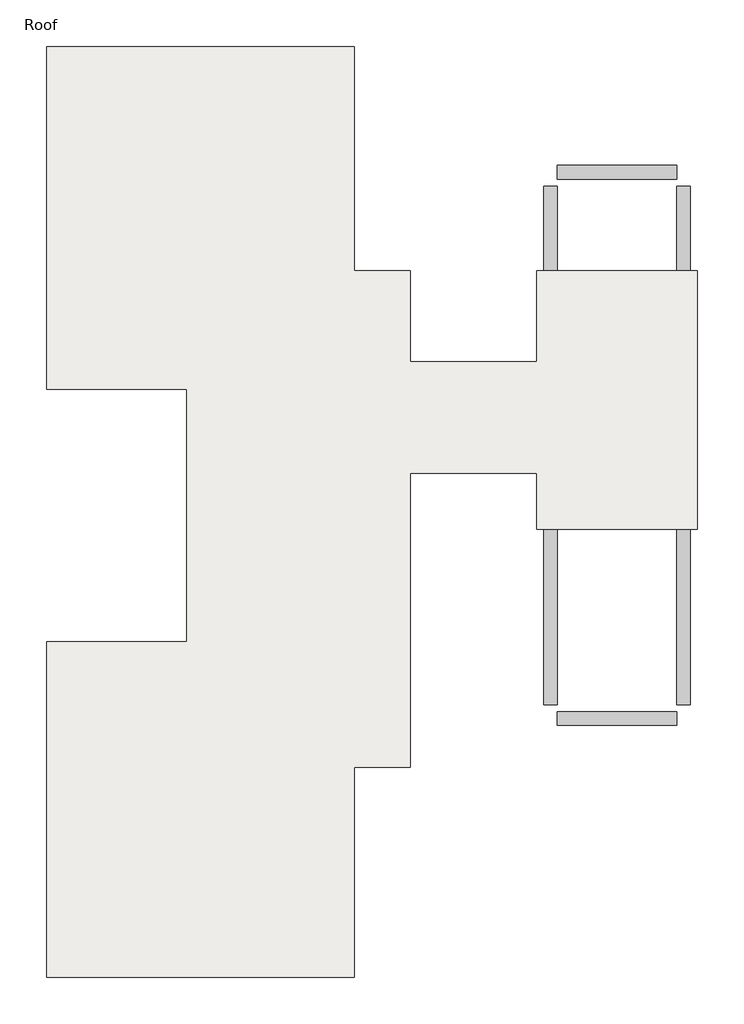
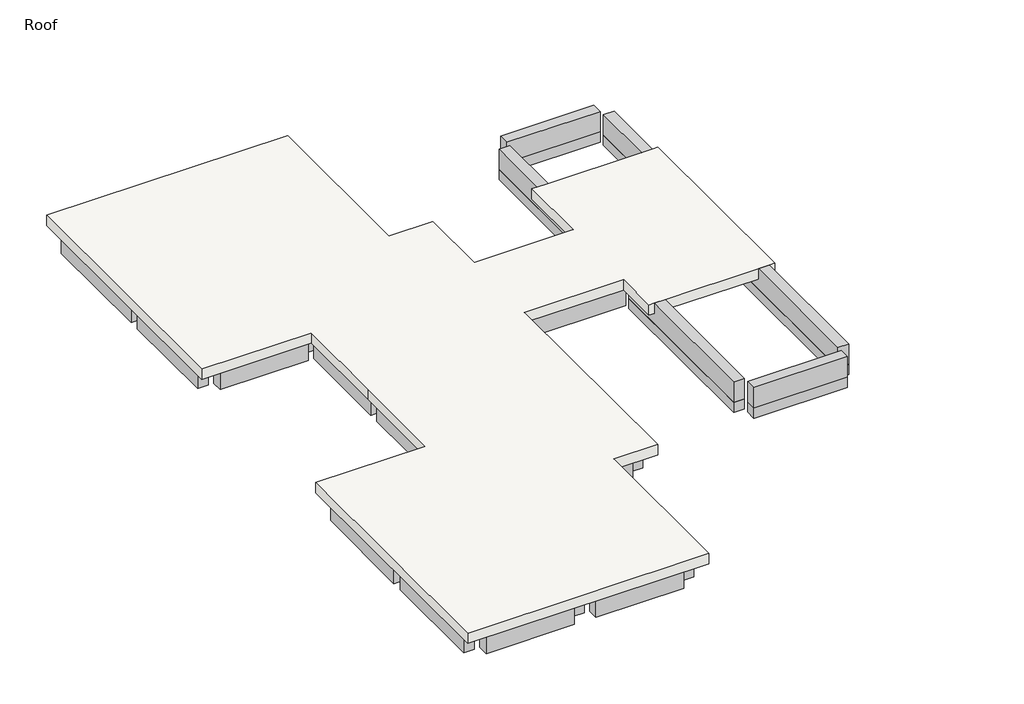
# One storey: 28 beams, 1 slab.
"""IFC4 building model written with IfcOpenShell, lengths in millimetres."""

from ifc_helpers import new_model, si_unit, frame, origin, place, context, project, spatial, polyline, outline, extrude, faceted_brep, element, save

model = new_model("IFC4")

# Units and contexts
model_context = context("Model", 3, world=origin())
ifc_project = project(units=[si_unit("LENGTHUNIT", "METRE", prefix="MILLI")], contexts=[model_context])

# Site, building, storey
site = spatial("IfcSite", under=ifc_project)
building = spatial("IfcBuilding", under=site)
storey = spatial("IfcBuildingStorey", under=building, Name="Roof", Elevation=7620.0)

# Beams
placement = place(None, origin())
element("IfcBeam", 1, ObjectType="M_Concrete-Rectangular Beam : 300 x 600mm", at=placement, inside=storey, context=model_context, shape_type="Brep", body=[
    faceted_brep([(-10964.7526929, 13307.19569, 7320.0), (-14012.7526929, 13307.19569, 7320.0), (-14012.7526929, 13157.19569, 7320.0), (-14012.7526929, 13007.19569, 7320.0), (-13862.7526929, 13007.19569, 7320.0), (-11114.7526929, 13007.19569, 7320.0), (-10964.7526929, 13007.19569, 7320.0), (-10964.7526929, 13157.19569, 7320.0), (-14012.7526929, 13007.19569, 7315.2), (-13712.7526929, 13007.19569, 7315.2), (-13712.7526929, 13007.19569, 6720.0), (-11264.7526929, 13007.19569, 6720.0), (-11264.7526929, 13007.19569, 7315.2), (-10964.7526929, 13007.19569, 7315.2), (-13712.7526929, 13307.19569, 6720.0), (-11264.7526929, 13307.19569, 6720.0), (-10964.7526929, 13307.19569, 7315.2), (-11264.7526929, 13307.19569, 7315.2), (-13712.7526929, 13307.19569, 7315.2), (-14012.7526929, 13307.19569, 7315.2), (-14012.7526929, 13157.19569, 7315.2), (-10964.7526929, 13157.19569, 7315.2)], [[[0, 1, 2, 3, 4, 5, 6, 7]], [[6, 5, 4, 3, 8, 9, 10, 11, 12, 13]], [[10, 14, 15, 11]], [[1, 0, 16, 17, 15, 14, 18, 19]], [[9, 18, 14, 10]], [[18, 9, 8, 20, 19]], [[17, 12, 11, 15]], [[12, 17, 16, 21, 13]], [[3, 2, 1, 19, 20, 8]], [[0, 7, 6, 13, 21, 16]]]),
])
element("IfcBeam", 2, ObjectType="M_Concrete-Rectangular Beam : 300 x 600mm", at=placement, inside=storey, context=model_context, shape_type="Brep", body=[
    faceted_brep([(-7916.7526929, 13307.19569, 7320.0), (-10964.7526929, 13307.19569, 7320.0), (-10964.7526929, 13157.19569, 7320.0), (-10814.7526929, 13157.19569, 7320.0), (-10814.7526929, 13007.19569, 7320.0), (-8066.7526929, 13007.19569, 7320.0), (-7916.7526929, 13007.19569, 7320.0), (-7916.7526929, 13157.19569, 7320.0), (-10664.7526929, 13007.19569, 7315.2), (-10664.7526929, 13007.19569, 6720.0), (-8216.7526929, 13007.19569, 6720.0), (-8216.7526929, 13007.19569, 7315.2), (-7916.7526929, 13007.19569, 7315.2), (-10814.7526929, 13007.19569, 7315.2), (-10664.7526929, 13307.19569, 6720.0), (-8216.7526929, 13307.19569, 6720.0), (-7916.7526929, 13307.19569, 7315.2), (-8216.7526929, 13307.19569, 7315.2), (-10664.7526929, 13307.19569, 7315.2), (-10964.7526929, 13307.19569, 7315.2), (-10814.7526929, 13157.19569, 7315.2), (-10964.7526929, 13157.19569, 7315.2), (-7916.7526929, 13157.19569, 7315.2)], [[[0, 1, 2, 3, 4, 5, 6, 7]], [[8, 9, 10, 11, 12, 6, 5, 4, 13]], [[9, 14, 15, 10]], [[1, 0, 16, 17, 15, 14, 18, 19]], [[8, 18, 14, 9]], [[18, 8, 13, 20, 21, 19]], [[17, 11, 10, 15]], [[11, 17, 16, 22, 12]], [[3, 20, 13, 4]], [[1, 19, 21, 2]], [[0, 7, 6, 12, 22, 16]], [[20, 3, 2, 21]]]),
])
element("IfcBeam", 3, ObjectType="M_Concrete-Rectangular Beam : 300 x 600mm", at=placement, inside=storey, context=model_context, shape_type="Brep", body=[
    faceted_brep([(-14162.7526929, 13157.19569, 7320.0), (-14162.7526929, 6299.19569, 7320.0), (-14012.7526929, 6299.19569, 7320.0), (-13862.7526929, 6299.19569, 7320.0), (-13862.7526929, 6449.19569, 7320.0), (-13862.7526929, 9349.59569, 7320.0), (-13862.7526929, 9649.59569, 7320.0), (-13862.7526929, 13007.19569, 7320.0), (-14012.7526929, 13007.19569, 7320.0), (-14012.7526929, 13157.19569, 7320.0), (-14162.7526929, 13157.19569, 7315.2), (-14162.7526929, 13007.19569, 7315.2), (-14162.7526929, 13007.19569, 6720.0), (-14162.7526929, 9649.59569, 6720.0), (-14162.7526929, 9649.59569, 7315.2), (-14162.7526929, 9349.59569, 7315.2), (-14162.7526929, 9349.59569, 6720.0), (-14162.7526929, 6449.19569, 6720.0), (-14162.7526929, 6449.19569, 7315.2), (-14162.7526929, 6299.19569, 7315.2), (-13862.7526929, 9349.59569, 6720.0), (-13862.7526929, 6449.19569, 6720.0), (-13862.7526929, 9649.59569, 7315.2), (-13862.7526929, 9649.59569, 6720.0), (-13862.7526929, 13007.19569, 6720.0), (-13862.7526929, 6299.19569, 7315.2), (-13862.7526929, 6449.19569, 7315.2), (-13862.7526929, 9349.59569, 7315.2), (-14012.7526929, 13007.19569, 7315.2), (-14012.7526929, 13157.19569, 7315.2), (-14012.7526929, 6299.19569, 7315.2)], [[[0, 1, 2, 3, 4, 5, 6, 7, 8, 9]], [[1, 0, 10, 11, 12, 13, 14, 15, 16, 17, 18, 19]], [[16, 20, 21, 17]], [[22, 23, 24, 7, 6, 5, 4, 3, 25, 26, 21, 20, 27]], [[8, 7, 24, 12, 11, 28]], [[28, 11, 10, 29]], [[22, 14, 13, 23]], [[15, 27, 20, 16]], [[14, 22, 27, 15]], [[23, 13, 12, 24]], [[26, 18, 17, 21]], [[18, 26, 25, 30, 19]], [[0, 9, 29, 10]], [[3, 2, 1, 19, 30, 25]], [[9, 8, 28, 29]]]),
])
element("IfcBeam", 4, ObjectType="M_Concrete-Rectangular Beam : 300 x 600mm", at=placement, inside=storey, context=model_context, shape_type="Brep", body=[
    faceted_brep([(-13862.7526929, 9649.59569, 7320.0), (-13862.7526929, 9349.59569, 7320.0), (-11114.7526929, 9349.59569, 7320.0), (-10814.7526929, 9349.59569, 7320.0), (-8066.7526929, 9349.59569, 7320.0), (-8066.7526929, 9649.59569, 7320.0), (-10814.7526929, 9649.59569, 7320.0), (-11114.7526929, 9649.59569, 7320.0), (-13862.7526929, 9349.59569, 7315.2), (-13712.7526929, 9349.59569, 7315.2), (-13712.7526929, 9349.59569, 6720.0), (-11264.7526929, 9349.59569, 6720.0), (-11264.7526929, 9349.59569, 7315.2), (-10664.7526929, 9349.59569, 7315.2), (-10664.7526929, 9349.59569, 6720.0), (-8216.7526929, 9349.59569, 6720.0), (-8216.7526929, 9349.59569, 7315.2), (-8066.7526929, 9349.59569, 7315.2), (-13712.7526929, 9649.59569, 6720.0), (-11264.7526929, 9649.59569, 6720.0), (-13862.7526929, 9649.59569, 7315.2), (-8066.7526929, 9649.59569, 7315.2), (-8216.7526929, 9649.59569, 7315.2), (-8216.7526929, 9649.59569, 6720.0), (-10664.7526929, 9649.59569, 6720.0), (-10664.7526929, 9649.59569, 7315.2), (-11264.7526929, 9649.59569, 7315.2), (-13712.7526929, 9649.59569, 7315.2)], [[[0, 1, 2, 3, 4, 5, 6, 7]], [[1, 8, 9, 10, 11, 12, 13, 14, 15, 16, 17, 4, 3, 2]], [[10, 18, 19, 11]], [[20, 0, 7, 6, 5, 21, 22, 23, 24, 25, 26, 19, 18, 27]], [[1, 0, 20, 8]], [[9, 27, 18, 10]], [[27, 9, 8, 20]], [[13, 25, 24, 14]], [[26, 12, 11, 19]], [[25, 13, 12, 26]], [[14, 24, 23, 15]], [[22, 16, 15, 23]], [[16, 22, 21, 17]], [[5, 4, 17, 21]]]),
])
element("IfcBeam", 5, ObjectType="M_Concrete-Rectangular Beam : 300 x 600mm", at=placement, inside=storey, context=model_context, shape_type="Brep", body=[
    faceted_brep([(-13862.7526929, 6449.19569, 7320.0), (-13862.7526929, 6299.19569, 7320.0), (-14012.7526929, 6299.19569, 7320.0), (-14012.7526929, 6149.19569, 7320.0), (-11114.7526929, 6149.19569, 7320.0), (-10814.7526929, 6149.19569, 7320.0), (-6847.5526929, 6149.19569, 7320.0), (-6547.5526929, 6149.19569, 7320.0), (-3494.7526929, 6149.19569, 7320.0), (-3494.7526929, 6449.19569, 7320.0), (-6547.5526929, 6449.19569, 7320.0), (-6847.5526929, 6449.19569, 7320.0), (-10814.7526929, 6449.19569, 7320.0), (-11114.7526929, 6449.19569, 7320.0), (-6397.5526929, 6149.19569, 7315.2), (-6397.5526929, 6149.19569, 6720.0), (-3494.7526929, 6149.19569, 6720.0), (-14012.7526929, 6149.19569, 7315.2), (-13712.7526929, 6149.19569, 7315.2), (-13712.7526929, 6149.19569, 6720.0), (-11264.7526929, 6149.19569, 6720.0), (-11264.7526929, 6149.19569, 7315.2), (-10664.7526929, 6149.19569, 7315.2), (-10664.7526929, 6149.19569, 6720.0), (-6997.5526929, 6149.19569, 6720.0), (-6997.5526929, 6149.19569, 7315.2), (-11264.7526929, 6449.19569, 6720.0), (-13712.7526929, 6449.19569, 6720.0), (-6397.5526929, 6449.19569, 6720.0), (-6397.5526929, 6449.19569, 7315.2), (-6997.5526929, 6449.19569, 7315.2), (-6997.5526929, 6449.19569, 6720.0), (-10664.7526929, 6449.19569, 6720.0), (-10664.7526929, 6449.19569, 7315.2), (-11264.7526929, 6449.19569, 7315.2), (-13712.7526929, 6449.19569, 7315.2), (-13862.7526929, 6449.19569, 7315.2), (-3494.7526929, 6449.19569, 6720.0), (-13862.7526929, 6299.19569, 7315.2), (-14012.7526929, 6299.19569, 7315.2)], [[[0, 1, 2, 3, 4, 5, 6, 7, 8, 9, 10, 11, 12, 13]], [[14, 15, 16, 8, 7, 6, 5, 4, 3, 17, 18, 19, 20, 21, 22, 23, 24, 25]], [[26, 20, 19, 27]], [[28, 29, 30, 31, 32, 33, 34, 26, 27, 35, 36, 0, 13, 12, 11, 10, 9, 37]], [[1, 0, 36, 38]], [[14, 29, 28, 15]], [[30, 25, 24, 31]], [[29, 14, 25, 30]], [[22, 33, 32, 23]], [[34, 21, 20, 26]], [[33, 22, 21, 34]], [[18, 35, 27, 19]], [[35, 18, 17, 39, 38, 36]], [[9, 8, 16, 37]], [[31, 24, 23, 32]], [[15, 28, 37, 16]], [[3, 2, 39, 17]], [[2, 1, 38, 39]]]),
    faceted_brep([(-599.1526929, 6449.19569, 7320.0), (-599.1526929, 6149.19569, 7320.0), (-599.1526929, 6149.19569, 6720.0), (-599.1526929, 6449.19569, 6720.0), (-3194.7526929, 6149.19569, 6720.0), (-3194.7526929, 6449.19569, 6720.0), (-3194.7526929, 6149.19569, 7320.0), (-3194.7526929, 6449.19569, 7320.0)], [[[0, 1, 2, 3]], [[3, 2, 4, 5]], [[6, 7, 5, 4]], [[1, 0, 7, 6]], [[2, 1, 6, 4]], [[0, 3, 5, 7]]]),
])
element("IfcBeam", 6, ObjectType="M_Concrete-Rectangular Beam : 300 x 600mm", at=placement, inside=storey, context=model_context, shape_type="Brep", body=[
    faceted_brep([(-10964.7526929, 13007.19569, 7320.0), (-11114.7526929, 13007.19569, 7320.0), (-11114.7526929, 9649.59569, 7320.0), (-10814.7526929, 9649.59569, 7320.0), (-10814.7526929, 13007.19569, 7320.0), (-10814.7526929, 13157.19569, 7320.0), (-10964.7526929, 13157.19569, 7320.0), (-11114.7526929, 9649.59569, 6720.0), (-11114.7526929, 13007.19569, 6720.0), (-10814.7526929, 9649.59569, 6720.0), (-10814.7526929, 13007.19569, 6720.0), (-10814.7526929, 13007.19569, 7315.2), (-10814.7526929, 13157.19569, 7315.2), (-10964.7526929, 13007.19569, 7315.2), (-10964.7526929, 13157.19569, 7315.2)], [[[0, 1, 2, 3, 4, 5, 6]], [[7, 2, 1, 8]], [[9, 7, 8, 10]], [[3, 9, 10, 11, 12, 5, 4]], [[1, 0, 13, 11, 10, 8]], [[11, 13, 14, 12]], [[7, 9, 3, 2]], [[6, 5, 12, 14]], [[0, 6, 14, 13]]]),
    faceted_brep([(-10814.7526929, 9349.59569, 6720.0), (-11114.7526929, 9349.59569, 6720.0), (-11114.7526929, 9349.59569, 7320.0), (-10814.7526929, 9349.59569, 7320.0), (-10814.7526929, 6449.19569, 6720.0), (-10814.7526929, 6449.19569, 7320.0), (-11114.7526929, 6449.19569, 7320.0), (-11114.7526929, 6449.19569, 6720.0)], [[[0, 1, 2, 3]], [[4, 5, 6, 7]], [[2, 1, 7, 6]], [[0, 3, 5, 4]], [[1, 0, 4, 7]], [[3, 2, 6, 5]]]),
    faceted_brep([(-11114.7526929, 3401.19569, 6720.0), (-11114.7526929, 6149.19569, 6720.0), (-10814.7526929, 6149.19569, 6720.0), (-10814.7526929, 3401.19569, 6720.0), (-11114.7526929, 6149.19569, 7320.0), (-10814.7526929, 6149.19569, 7320.0), (-10814.7526929, 3401.19569, 7315.2), (-11114.7526929, 3401.19569, 7315.2), (-11114.7526929, 3101.19569, 7315.2), (-10814.7526929, 3101.19569, 7315.2), (-10814.7526929, 3101.19569, 6720.0), (-11114.7526929, 3101.19569, 6720.0), (-10814.7526929, 353.19569, 7315.2), (-11114.7526929, 353.19569, 7315.2), (-11114.7526929, 353.19569, 6720.0), (-10814.7526929, 353.19569, 6720.0), (-11114.7526929, 53.19569, 7315.2), (-10814.7526929, 53.19569, 7315.2), (-10814.7526929, 53.19569, 6720.0), (-11114.7526929, 53.19569, 6720.0), (-10814.7526929, -2999.60431, 7315.2), (-11114.7526929, -2999.60431, 7315.2), (-11114.7526929, -2999.60431, 6720.0), (-10814.7526929, -2999.60431, 6720.0), (-11114.7526929, -3299.60431, 7315.2), (-10814.7526929, -3299.60431, 7315.2), (-10814.7526929, -3299.60431, 6720.0), (-11114.7526929, -3299.60431, 6720.0), (-11114.7526929, -6352.40431, 6720.0), (-10814.7526929, -6352.40431, 6720.0), (-10814.7526929, -6352.40431, 7320.0), (-11114.7526929, -6352.40431, 7320.0), (-11114.7526929, 353.19569, 7320.0), (-11114.7526929, 53.19569, 7320.0), (-11114.7526929, -2999.60431, 7320.0), (-11114.7526929, -3299.60431, 7320.0), (-10814.7526929, -3299.60431, 7320.0), (-10814.7526929, -2999.60431, 7320.0), (-10814.7526929, 53.19569, 7320.0), (-10814.7526929, 353.19569, 7320.0)], [[[0, 1, 2, 3]], [[1, 4, 5, 2]], [[6, 7, 0, 3]], [[8, 9, 10, 11]], [[7, 6, 9, 8]], [[12, 13, 14, 15]], [[16, 17, 18, 19]], [[13, 12, 17, 16]], [[20, 21, 22, 23]], [[24, 25, 26, 27]], [[21, 20, 25, 24]], [[28, 29, 30, 31]], [[5, 4, 32, 33, 34, 35, 31, 30, 36, 37, 38, 39]], [[0, 7, 8, 11, 14, 13, 16, 19, 22, 21, 24, 27, 28, 31, 35, 34, 33, 32, 4, 1]], [[6, 3, 2, 5, 39, 38, 37, 36, 30, 29, 26, 25, 20, 23, 18, 17, 12, 15, 10, 9]], [[28, 27, 26, 29]], [[14, 11, 10, 15]], [[22, 19, 18, 23]]]),
])
element("IfcBeam", 7, ObjectType="M_Concrete-Rectangular Beam : 300 x 600mm", at=placement, inside=storey, context=model_context, shape_type="Brep", body=[
    faceted_brep([(-13862.7526929, -6502.40431, 7320.0), (-13862.7526929, -6352.40431, 7320.0), (-13862.7526929, -3299.60431, 7320.0), (-13862.7526929, -2999.60431, 7320.0), (-13862.7526929, 53.19569, 7320.0), (-13862.7526929, 203.19569, 7320.0), (-14012.7526929, 203.19569, 7320.0), (-14162.7526929, 203.19569, 7320.0), (-14162.7526929, -6502.40431, 7320.0), (-14012.7526929, -6502.40431, 7320.0), (-14162.7526929, 203.19569, 7315.2), (-14162.7526929, 53.19569, 7315.2), (-14162.7526929, 53.19569, 6720.0), (-14162.7526929, -2999.60431, 6720.0), (-14162.7526929, -2999.60431, 7315.2), (-14162.7526929, -3299.60431, 7315.2), (-14162.7526929, -3299.60431, 6720.0), (-14162.7526929, -6352.40431, 6720.0), (-14162.7526929, -6352.40431, 7315.2), (-14162.7526929, -6502.40431, 7315.2), (-13862.7526929, 53.19569, 6720.0), (-13862.7526929, -2999.60431, 6720.0), (-13862.7526929, -6502.40431, 7315.2), (-13862.7526929, -6352.40431, 7315.2), (-13862.7526929, -6352.40431, 6720.0), (-13862.7526929, -3299.60431, 6720.0), (-13862.7526929, -3299.60431, 7315.2), (-13862.7526929, -2999.60431, 7315.2), (-13862.7526929, 53.19569, 7315.2), (-13862.7526929, 203.19569, 7315.2), (-14012.7526929, 203.19569, 7315.2), (-14012.7526929, -6502.40431, 7315.2)], [[[0, 1, 2, 3, 4, 5, 6, 7, 8, 9]], [[8, 7, 10, 11, 12, 13, 14, 15, 16, 17, 18, 19]], [[12, 20, 21, 13]], [[5, 4, 3, 2, 1, 0, 22, 23, 24, 25, 26, 27, 21, 20, 28, 29]], [[11, 28, 20, 12]], [[28, 11, 10, 30, 29]], [[27, 14, 13, 21]], [[15, 26, 25, 16]], [[14, 27, 26, 15]], [[16, 25, 24, 17]], [[23, 18, 17, 24]], [[18, 23, 22, 31, 19]], [[7, 6, 5, 29, 30, 10]], [[0, 9, 8, 19, 31, 22]]]),
])
element("IfcBeam", 8, ObjectType="M_Concrete-Rectangular Beam : 300 x 600mm", at=placement, inside=storey, context=model_context, shape_type="Brep", body=[
    faceted_brep([(-13862.7526929, 203.19569, 7320.0), (-13862.7526929, 53.19569, 7320.0), (-11114.7526929, 53.19569, 7320.0), (-11114.7526929, 353.19569, 7320.0), (-14012.7526929, 353.19569, 7320.0), (-14012.7526929, 203.19569, 7320.0), (-13862.7526929, 53.19569, 7315.2), (-13712.7526929, 53.19569, 7315.2), (-13712.7526929, 53.19569, 6720.0), (-11264.7526929, 53.19569, 6720.0), (-11264.7526929, 53.19569, 7315.2), (-11114.7526929, 53.19569, 7315.2), (-13712.7526929, 353.19569, 6720.0), (-11264.7526929, 353.19569, 6720.0), (-13862.7526929, 203.19569, 7315.2), (-13712.7526929, 353.19569, 7315.2), (-14012.7526929, 203.19569, 7315.2), (-14012.7526929, 353.19569, 7315.2), (-11264.7526929, 353.19569, 7315.2), (-11114.7526929, 353.19569, 7315.2)], [[[0, 1, 2, 3, 4, 5]], [[1, 6, 7, 8, 9, 10, 11, 2]], [[8, 12, 13, 9]], [[1, 0, 14, 6]], [[7, 15, 12, 8]], [[15, 7, 6, 14, 16, 17]], [[18, 10, 9, 13]], [[10, 18, 19, 11]], [[3, 2, 11, 19]], [[12, 15, 17, 4, 3, 19, 18, 13]], [[5, 4, 17, 16]], [[0, 5, 16, 14]]]),
    faceted_brep([(-10664.7526929, 353.19569, 6720.0), (-10664.7526929, 353.19569, 7315.2), (-10814.7526929, 353.19569, 7315.2), (-10814.7526929, 353.19569, 7320.0), (-6847.5526929, 353.19569, 7320.0), (-6847.5526929, 353.19569, 7315.2), (-6997.5526929, 353.19569, 7315.2), (-6997.5526929, 353.19569, 6720.0), (-10664.7526929, 53.19569, 7315.2), (-10664.7526929, 53.19569, 6720.0), (-6997.5526929, 53.19569, 6720.0), (-6997.5526929, 53.19569, 7315.2), (-6847.5526929, 53.19569, 7315.2), (-10814.7526929, 53.19569, 7320.0), (-10814.7526929, 53.19569, 7315.2), (-6847.5526929, 53.19569, 7320.0)], [[[0, 1, 2, 3, 4, 5, 6, 7]], [[8, 1, 0, 9]], [[9, 0, 7, 10]], [[6, 11, 10, 7]], [[11, 6, 5, 12]], [[13, 3, 2, 14]], [[3, 13, 15, 4]], [[8, 9, 10, 11, 12, 15, 13, 14]], [[1, 8, 14, 2]], [[5, 4, 15, 12]]]),
])
element("IfcBeam", 9, ObjectType="M_Concrete-Rectangular Beam : 300 x 600mm", at=placement, inside=storey, context=model_context, shape_type="Brep", body=[
    faceted_brep([(-7916.7526929, 13007.19569, 7320.0), (-8066.7526929, 13007.19569, 7320.0), (-8066.7526929, 9649.59569, 7320.0), (-8066.7526929, 9349.59569, 7320.0), (-8066.7526929, 8130.39569, 7320.0), (-7766.7526929, 8130.39569, 7320.0), (-7766.7526929, 8430.39569, 7320.0), (-7766.7526929, 13157.19569, 7320.0), (-7916.7526929, 13157.19569, 7320.0), (-8066.7526929, 13007.19569, 6720.0), (-8066.7526929, 9649.59569, 6720.0), (-8066.7526929, 9649.59569, 7315.2), (-8066.7526929, 9349.59569, 7315.2), (-8066.7526929, 9349.59569, 6720.0), (-8066.7526929, 8130.39569, 6720.0), (-7766.7526929, 13007.19569, 6720.0), (-7766.7526929, 9649.59569, 6720.0), (-7766.7526929, 13007.19569, 7315.2), (-7766.7526929, 13157.19569, 7315.2), (-7766.7526929, 8130.39569, 6720.0), (-7766.7526929, 8430.39569, 6720.0), (-7766.7526929, 9349.59569, 6720.0), (-7766.7526929, 9349.59569, 7315.2), (-7766.7526929, 9649.59569, 7315.2), (-7916.7526929, 13007.19569, 7315.2), (-7916.7526929, 13157.19569, 7315.2)], [[[0, 1, 2, 3, 4, 5, 6, 7, 8]], [[1, 9, 10, 11, 12, 13, 14, 4, 3, 2]], [[9, 15, 16, 10]], [[15, 17, 18, 7, 6, 5, 19, 20, 21, 22, 23, 16]], [[1, 0, 24, 17, 15, 9]], [[17, 24, 25, 18]], [[23, 11, 10, 16]], [[12, 22, 21, 13]], [[11, 23, 22, 12]], [[19, 14, 13, 21, 20]], [[8, 7, 18, 25]], [[5, 4, 14, 19]], [[0, 8, 25, 24]]]),
])
element("IfcBeam", 10, ObjectType="M_Concrete-Rectangular Beam : 300 x 600mm", at=placement, inside=storey, context=model_context, shape_type="Brep", body=[
    faceted_brep([(-7766.7526929, 8430.39569, 7320.0), (-7766.7526929, 8130.39569, 7320.0), (-6847.5526929, 8130.39569, 7320.0), (-6697.5526929, 8130.39569, 7320.0), (-6697.5526929, 8280.39569, 7320.0), (-6697.5526929, 8430.39569, 7320.0), (-7766.7526929, 8130.39569, 6720.0), (-6997.5526929, 8130.39569, 6720.0), (-6997.5526929, 8130.39569, 7315.2), (-6697.5526929, 8130.39569, 7315.2), (-7766.7526929, 8430.39569, 6720.0), (-6997.5526929, 8430.39569, 6720.0), (-6697.5526929, 8430.39569, 7315.2), (-6997.5526929, 8430.39569, 7315.2), (-6697.5526929, 8280.39569, 7315.2)], [[[0, 1, 2, 3, 4, 5]], [[3, 2, 1, 6, 7, 8, 9]], [[6, 10, 11, 7]], [[10, 0, 5, 12, 13, 11]], [[1, 0, 10, 6]], [[13, 8, 7, 11]], [[8, 13, 12, 14, 9]], [[5, 4, 3, 9, 14, 12]]]),
])
element("IfcBeam", 11, ObjectType="M_Concrete-Rectangular Beam : 300 x 600mm", at=placement, inside=storey, context=model_context, shape_type="Brep", body=[
    faceted_brep([(-6697.5526929, 8130.39569, 7320.0), (-6847.5526929, 8130.39569, 7320.0), (-6847.5526929, 6449.19569, 7320.0), (-6547.5526929, 6449.19569, 7320.0), (-6547.5526929, 8280.39569, 7320.0), (-6697.5526929, 8280.39569, 7320.0), (-6847.5526929, 6449.19569, 6720.0), (-6847.5526929, 8130.39569, 6720.0), (-6547.5526929, 6449.19569, 6720.0), (-6547.5526929, 8130.39569, 6720.0), (-6547.5526929, 8130.39569, 7315.2), (-6547.5526929, 8280.39569, 7315.2), (-6697.5526929, 8130.39569, 7315.2), (-6697.5526929, 8280.39569, 7315.2)], [[[0, 1, 2, 3, 4, 5]], [[6, 2, 1, 7]], [[8, 6, 7, 9]], [[3, 8, 9, 10, 11, 4]], [[1, 0, 12, 10, 9, 7]], [[10, 12, 13, 11]], [[6, 8, 3, 2]], [[5, 4, 11, 13]], [[0, 5, 13, 12]]]),
    faceted_brep([(-6847.5526929, 6149.19569, 7320.0), (-6547.5526929, 6149.19569, 7320.0), (-6547.5526929, 6149.19569, 6720.0), (-6847.5526929, 6149.19569, 6720.0), (-6847.5526929, 353.19569, 6720.0), (-6847.5526929, 3101.19569, 6720.0), (-6547.5526929, 3101.19569, 6720.0), (-6547.5526929, 353.19569, 6720.0), (-6547.5526929, 3401.19569, 7315.2), (-6847.5526929, 3401.19569, 7315.2), (-6847.5526929, 3401.19569, 6720.0), (-6547.5526929, 3401.19569, 6720.0), (-6847.5526929, 3101.19569, 7315.2), (-6547.5526929, 3101.19569, 7315.2), (-6547.5526929, 353.19569, 7315.2), (-6847.5526929, 353.19569, 7315.2), (-6847.5526929, 53.19569, 7315.2), (-6547.5526929, 53.19569, 7315.2), (-6547.5526929, 53.19569, 6720.0), (-6847.5526929, 53.19569, 6720.0), (-6547.5526929, -1780.40431, 7315.2), (-6847.5526929, -1780.40431, 7315.2), (-6847.5526929, -1780.40431, 6720.0), (-6547.5526929, -1780.40431, 6720.0), (-6547.5526929, -1930.40431, 7315.2), (-6697.5526929, -1930.40431, 7315.2), (-6847.5526929, -1930.40431, 7315.2), (-6847.5526929, -1930.40431, 7320.0), (-6697.5526929, -1930.40431, 7320.0), (-6547.5526929, -1930.40431, 7320.0), (-6547.5526929, 4320.39569, 7320.0), (-6547.5526929, 4620.39569, 7320.0), (-6847.5526929, 353.19569, 7320.0), (-6847.5526929, 53.19569, 7320.0), (-6847.5526929, -1780.40431, 7320.0), (-6547.5526929, 4320.39569, 6720.0), (-6547.5526929, 4620.39569, 6720.0)], [[[0, 1, 2, 3]], [[4, 5, 6, 7]], [[8, 9, 10, 11]], [[12, 13, 6, 5]], [[9, 8, 13, 12]], [[14, 15, 4, 7]], [[16, 17, 18, 19]], [[15, 14, 17, 16]], [[20, 21, 22, 23]], [[21, 20, 24, 25, 26]], [[27, 28, 29, 30, 31, 1, 0, 32, 33, 34]], [[0, 3, 10, 9, 12, 5, 4, 15, 16, 19, 22, 21, 26, 27, 34, 33, 32]], [[2, 1, 31, 30, 29, 24, 20, 23, 18, 17, 14, 7, 6, 13, 8, 11, 35, 36]], [[29, 28, 27, 26, 25, 24]], [[3, 2, 36, 35, 11, 10]], [[22, 19, 18, 23]]]),
])
element("IfcBeam", 12, ObjectType="M_Concrete-Rectangular Beam : 300 x 600mm", at=placement, inside=storey, context=model_context, shape_type="Brep", body=[
    faceted_brep([(-6847.5526929, -1930.40431, 7320.0), (-6847.5526929, -1780.40431, 7320.0), (-8066.7526929, -1780.40431, 7320.0), (-8066.7526929, -2080.40431, 7320.0), (-7766.7526929, -2080.40431, 7320.0), (-6697.5526929, -2080.40431, 7320.0), (-6697.5526929, -1930.40431, 7320.0), (-8066.7526929, -1780.40431, 6720.0), (-6847.5526929, -1780.40431, 7315.2), (-6997.5526929, -1780.40431, 7315.2), (-6997.5526929, -1780.40431, 6720.0), (-8066.7526929, -2080.40431, 6720.0), (-6997.5526929, -2080.40431, 6720.0), (-7766.7526929, -2080.40431, 6720.0), (-6997.5526929, -2080.40431, 7315.2), (-6697.5526929, -2080.40431, 7315.2), (-6847.5526929, -1930.40431, 7315.2), (-6697.5526929, -1930.40431, 7315.2)], [[[0, 1, 2, 3, 4, 5, 6]], [[7, 2, 1, 8, 9, 10]], [[11, 7, 10, 12, 13]], [[5, 4, 3, 11, 13, 12, 14, 15]], [[1, 0, 16, 8]], [[9, 14, 12, 10]], [[14, 9, 8, 16, 17, 15]], [[6, 5, 15, 17]], [[3, 2, 7, 11]], [[0, 6, 17, 16]]]),
])
element("IfcBeam", 13, ObjectType="M_Concrete-Rectangular Beam : 300 x 600mm", at=placement, inside=storey, context=model_context, shape_type="Brep", body=[
    faceted_brep([(-7766.7526929, -2080.40431, 7320.0), (-8066.7526929, -2080.40431, 7320.0), (-8066.7526929, -2999.60431, 7320.0), (-8066.7526929, -3299.60431, 7320.0), (-8066.7526929, -6352.40431, 7320.0), (-8066.7526929, -6502.40431, 7320.0), (-7916.7526929, -6502.40431, 7320.0), (-7766.7526929, -6502.40431, 7320.0), (-8066.7526929, -2999.60431, 6720.0), (-8066.7526929, -2999.60431, 7315.2), (-8066.7526929, -3299.60431, 7315.2), (-8066.7526929, -3299.60431, 6720.0), (-8066.7526929, -6352.40431, 6720.0), (-8066.7526929, -6352.40431, 7315.2), (-8066.7526929, -6502.40431, 7315.2), (-8066.7526929, -2080.40431, 6720.0), (-7766.7526929, -2080.40431, 6720.0), (-7766.7526929, -2999.60431, 6720.0), (-7766.7526929, -6502.40431, 7315.2), (-7766.7526929, -6352.40431, 7315.2), (-7766.7526929, -6352.40431, 6720.0), (-7766.7526929, -3299.60431, 6720.0), (-7766.7526929, -3299.60431, 7315.2), (-7766.7526929, -2999.60431, 7315.2), (-7916.7526929, -6502.40431, 7315.2)], [[[0, 1, 2, 3, 4, 5, 6, 7]], [[8, 9, 10, 11, 12, 13, 14, 5, 4, 3, 2, 1, 15]], [[15, 16, 17, 8]], [[16, 0, 7, 18, 19, 20, 21, 22, 23, 17]], [[1, 0, 16, 15]], [[23, 9, 8, 17]], [[10, 22, 21, 11]], [[9, 23, 22, 10]], [[11, 21, 20, 12]], [[19, 13, 12, 20]], [[13, 19, 18, 24, 14]], [[7, 6, 5, 14, 24, 18]]]),
])
element("IfcBeam", 14, ObjectType="M_Concrete-Rectangular Beam : 300 x 600mm", at=placement, inside=storey, context=model_context, shape_type="Brep", body=[
    faceted_brep([(-14012.7526929, -6652.40431, 7320.0), (-7916.7526929, -6652.40431, 7320.0), (-7916.7526929, -6502.40431, 7320.0), (-8066.7526929, -6502.40431, 7320.0), (-8066.7526929, -6352.40431, 7320.0), (-10814.7526929, -6352.40431, 7320.0), (-11114.7526929, -6352.40431, 7320.0), (-13862.7526929, -6352.40431, 7320.0), (-13862.7526929, -6502.40431, 7320.0), (-14012.7526929, -6502.40431, 7320.0), (-13862.7526929, -6352.40431, 7315.2), (-8066.7526929, -6352.40431, 7315.2), (-8216.7526929, -6352.40431, 7315.2), (-8216.7526929, -6352.40431, 6720.0), (-10664.7526929, -6352.40431, 6720.0), (-10664.7526929, -6352.40431, 7315.2), (-11264.7526929, -6352.40431, 7315.2), (-11264.7526929, -6352.40431, 6720.0), (-13712.7526929, -6352.40431, 6720.0), (-13712.7526929, -6352.40431, 7315.2), (-10664.7526929, -6652.40431, 6720.0), (-8216.7526929, -6652.40431, 6720.0), (-14012.7526929, -6652.40431, 7315.2), (-13712.7526929, -6652.40431, 7315.2), (-13712.7526929, -6652.40431, 6720.0), (-11264.7526929, -6652.40431, 6720.0), (-11264.7526929, -6652.40431, 7315.2), (-10664.7526929, -6652.40431, 7315.2), (-8216.7526929, -6652.40431, 7315.2), (-7916.7526929, -6652.40431, 7315.2), (-13862.7526929, -6502.40431, 7315.2), (-8066.7526929, -6502.40431, 7315.2), (-14012.7526929, -6502.40431, 7315.2), (-7916.7526929, -6502.40431, 7315.2)], [[[0, 1, 2, 3, 4, 5, 6, 7, 8, 9]], [[10, 7, 6, 5, 4, 11, 12, 13, 14, 15, 16, 17, 18, 19]], [[20, 14, 13, 21]], [[1, 0, 22, 23, 24, 25, 26, 27, 20, 21, 28, 29]], [[8, 7, 10, 30]], [[4, 3, 31, 11]], [[23, 19, 18, 24]], [[19, 23, 22, 32, 30, 10]], [[27, 15, 14, 20]], [[16, 26, 25, 17]], [[15, 27, 26, 16]], [[24, 18, 17, 25]], [[12, 28, 21, 13]], [[28, 12, 11, 31, 33, 29]], [[0, 9, 32, 22]], [[2, 1, 29, 33]], [[9, 8, 30, 32]], [[3, 2, 33, 31]]]),
])
element("IfcBeam", 15, ObjectType="M_Concrete-Rectangular Beam : 300 x 600mm", at=placement, inside=storey, context=model_context, shape_type="SweptSolid", body=[
    extrude(outline(polyline([(7320.0, -13862.7526929), (7315.2, -13862.7526929), (7315.2, -13712.7526929), (6720.0, -13712.7526929), (6720.0, -11264.7526929), (7315.2, -11264.7526929), (7315.2, -11114.7526929), (7320.0, -11114.7526929), (7320.0, -13862.7526929)])), frame((0.0, -3299.60431, 0.0), z_axis=(0.0, 1.0, 0.0), x_axis=(0.0, 0.0, 1.0)), (0.0, 0.0, 1.0), 300.0),
    extrude(outline(polyline([(7315.2, -10664.7526929), (6720.0, -10664.7526929), (6720.0, -8216.7526929), (7315.2, -8216.7526929), (7315.2, -8066.7526929), (7320.0, -8066.7526929), (7320.0, -10814.7526929), (7315.2, -10814.7526929), (7315.2, -10664.7526929)])), frame((0.0, -3299.60431, 0.0), z_axis=(0.0, 1.0, 0.0), x_axis=(0.0, 0.0, 1.0)), (0.0, 0.0, 1.0), 300.0),
])
element("IfcBeam", 16, ObjectType="M_Concrete-Rectangular Beam : 300 x 600mm", at=placement, inside=storey, context=model_context, shape_type="SweptSolid", body=[
    extrude(outline(polyline([(-6547.5526929, 4320.39569), (-6547.5526929, 4620.39569), (-3494.7526929, 4620.39569), (-3494.7526929, 4320.39569), (-6547.5526929, 4320.39569)])), frame((0.0, 0.0, 6720.0), z_axis=(0.0, 0.0, 1.0), x_axis=(1.0, 0.0, 0.0)), (0.0, 0.0, 1.0), 600.0),
    extrude(outline(polyline([(-599.1526929, 4620.39569), (-599.1526929, 4320.39569), (-3194.7526929, 4320.39569), (-3194.7526929, 4620.39569), (-599.1526929, 4620.39569)])), frame((0.0, 0.0, 6720.0), z_axis=(0.0, 0.0, 1.0), x_axis=(1.0, 0.0, 0.0)), (0.0, 0.0, 1.0), 600.0),
])
element("IfcBeam", 17, ObjectType="M_Concrete-Rectangular Beam : 300 x 600mm", at=placement, inside=storey, context=model_context, shape_type="SweptSolid", body=[
    extrude(outline(polyline([(-868.40431, 7020.0), (-868.40431, 7620.0), (2951.19569, 7620.0), (2951.19569, 7320.0), (4170.39569, 7320.0), (4170.39569, 7020.0), (-868.40431, 7020.0)])), frame((-3494.7526929, 0.0, 0.0), z_axis=(1.0, 0.0, 0.0), x_axis=(0.0, 1.0, 0.0)), (0.0, 0.0, 1.0), 300.0),
    extrude(outline(polyline([(10418.79569, 7620.0), (10418.79569, 7020.0), (6599.19569, 7020.0), (6599.19569, 7320.0), (8580.39569, 7320.0), (8580.39569, 7620.0), (10418.79569, 7620.0)])), frame((-3494.7526929, 0.0, 0.0), z_axis=(1.0, 0.0, 0.0), x_axis=(0.0, 1.0, 0.0)), (0.0, 0.0, 1.0), 300.0),
    extrude(outline(polyline([(-3494.7526929, 4770.39569), (-3494.7526929, 5999.19569), (-3194.7526929, 5999.19569), (-3194.7526929, 4770.39569), (-3494.7526929, 4770.39569)])), frame((0.0, 0.0, 7020.0), z_axis=(0.0, 0.0, 1.0), x_axis=(1.0, 0.0, 0.0)), (0.0, 0.0, 1.0), 300.0),
])
element("IfcBeam", 18, ObjectType="M_Concrete-Rectangular Beam : 300 x 600mm", at=placement, inside=storey, context=model_context, shape_type="SweptSolid", body=[
    extrude(outline(polyline([(-3194.7526929, -1318.40431), (-3194.7526929, -1018.40431), (-599.1526929, -1018.40431), (-599.1526929, -1318.40431), (-3194.7526929, -1318.40431)])), frame((0.0, 0.0, 7020.0), z_axis=(0.0, 0.0, 1.0), x_axis=(1.0, 0.0, 0.0)), (0.0, 0.0, 1.0), 600.0),
])
element("IfcBeam", 19, ObjectType="M_Concrete-Rectangular Beam : 300 x 600mm", at=placement, inside=storey, context=model_context, shape_type="SweptSolid", body=[
    extrude(outline(polyline([(10418.79569, 7620.0), (10418.79569, 7020.0), (6599.19569, 7020.0), (6599.19569, 7320.0), (8580.39569, 7320.0), (8580.39569, 7620.0), (10418.79569, 7620.0)])), frame((-599.1526929, 0.0, 0.0), z_axis=(1.0, 0.0, 0.0), x_axis=(0.0, 1.0, 0.0)), (0.0, 0.0, 1.0), 300.0),
    extrude(outline(polyline([(-868.40431, 7020.0), (-868.40431, 7620.0), (2951.19569, 7620.0), (2951.19569, 7320.0), (4170.39569, 7320.0), (4170.39569, 7020.0), (-868.40431, 7020.0)])), frame((-599.1526929, 0.0, 0.0), z_axis=(1.0, 0.0, 0.0), x_axis=(0.0, 1.0, 0.0)), (0.0, 0.0, 1.0), 300.0),
    extrude(outline(polyline([(-299.1526929, 5999.19569), (-299.1526929, 4770.39569), (-599.1526929, 4770.39569), (-599.1526929, 5999.19569), (-299.1526929, 5999.19569)])), frame((0.0, 0.0, 7020.0), z_axis=(0.0, 0.0, 1.0), x_axis=(1.0, 0.0, 0.0)), (0.0, 0.0, 1.0), 300.0),
])
element("IfcBeam", 20, ObjectType="M_Concrete-Rectangular Beam : 300 x 600mm", at=placement, inside=storey, context=model_context, shape_type="SweptSolid", body=[
    extrude(outline(polyline([(-3194.7526929, 10568.79569), (-3194.7526929, 10868.79569), (-599.1526929, 10868.79569), (-599.1526929, 10568.79569), (-3194.7526929, 10568.79569)])), frame((0.0, 0.0, 7020.0), z_axis=(0.0, 0.0, 1.0), x_axis=(1.0, 0.0, 0.0)), (0.0, 0.0, 1.0), 600.0),
])
element("IfcBeam", 21, ObjectType="M_Concrete-Rectangular Beam : 300 x 600mm", at=placement, inside=storey, context=model_context, shape_type="SweptSolid", body=[
    extrude(outline(polyline([(-3494.7526929, 4170.39569), (-3194.7526929, 4170.39569), (-3194.7526929, -868.40431), (-3494.7526929, -868.40431), (-3494.7526929, 4170.39569)])), frame((0.0, 0.0, 6720.0), z_axis=(0.0, 0.0, 1.0), x_axis=(1.0, 0.0, 0.0)), (0.0, 0.0, 1.0), 300.0),
])
element("IfcBeam", 22, ObjectType="M_Concrete-Rectangular Beam : 300 x 600mm", at=placement, inside=storey, context=model_context, shape_type="SweptSolid", body=[
    extrude(outline(polyline([(-3494.7526929, 5999.19569), (-3194.7526929, 5999.19569), (-3194.7526929, 4770.39569), (-3494.7526929, 4770.39569), (-3494.7526929, 5999.19569)])), frame((0.0, 0.0, 6720.0), z_axis=(0.0, 0.0, 1.0), x_axis=(1.0, 0.0, 0.0)), (0.0, 0.0, 1.0), 300.0),
])
element("IfcBeam", 23, ObjectType="M_Concrete-Rectangular Beam : 300 x 600mm", at=placement, inside=storey, context=model_context, shape_type="SweptSolid", body=[
    extrude(outline(polyline([(-3194.7526929, 6599.19569), (-3494.7526929, 6599.19569), (-3494.7526929, 10418.79569), (-3194.7526929, 10418.79569), (-3194.7526929, 6599.19569)])), frame((0.0, 0.0, 6720.0), z_axis=(0.0, 0.0, 1.0), x_axis=(1.0, 0.0, 0.0)), (0.0, 0.0, 1.0), 300.0),
])
element("IfcBeam", 24, ObjectType="M_Concrete-Rectangular Beam : 300 x 600mm", at=placement, inside=storey, context=model_context, shape_type="SweptSolid", body=[
    extrude(outline(polyline([(-3194.7526929, 10568.79569), (-3194.7526929, 10868.79569), (-599.1526929, 10868.79569), (-599.1526929, 10568.79569), (-3194.7526929, 10568.79569)])), frame((0.0, 0.0, 6720.0), z_axis=(0.0, 0.0, 1.0), x_axis=(1.0, 0.0, 0.0)), (0.0, 0.0, 1.0), 300.0),
])
element("IfcBeam", 25, ObjectType="M_Concrete-Rectangular Beam : 300 x 600mm", at=placement, inside=storey, context=model_context, shape_type="SweptSolid", body=[
    extrude(outline(polyline([(-299.1526929, 6599.19569), (-599.1526929, 6599.19569), (-599.1526929, 10418.79569), (-299.1526929, 10418.79569), (-299.1526929, 6599.19569)])), frame((0.0, 0.0, 6720.0), z_axis=(0.0, 0.0, 1.0), x_axis=(1.0, 0.0, 0.0)), (0.0, 0.0, 1.0), 300.0),
])
element("IfcBeam", 26, ObjectType="M_Concrete-Rectangular Beam : 300 x 600mm", at=placement, inside=storey, context=model_context, shape_type="SweptSolid", body=[
    extrude(outline(polyline([(-599.1526929, 5999.19569), (-299.1526929, 5999.19569), (-299.1526929, 4770.39569), (-599.1526929, 4770.39569), (-599.1526929, 5999.19569)])), frame((0.0, 0.0, 6720.0), z_axis=(0.0, 0.0, 1.0), x_axis=(1.0, 0.0, 0.0)), (0.0, 0.0, 1.0), 300.0),
])
element("IfcBeam", 27, ObjectType="M_Concrete-Rectangular Beam : 300 x 600mm", at=placement, inside=storey, context=model_context, shape_type="SweptSolid", body=[
    extrude(outline(polyline([(-599.1526929, 4170.39569), (-299.1526929, 4170.39569), (-299.1526929, -868.40431), (-599.1526929, -868.40431), (-599.1526929, 4170.39569)])), frame((0.0, 0.0, 6720.0), z_axis=(0.0, 0.0, 1.0), x_axis=(1.0, 0.0, 0.0)), (0.0, 0.0, 1.0), 300.0),
])
element("IfcBeam", 28, ObjectType="M_Concrete-Rectangular Beam : 300 x 600mm", at=placement, inside=storey, context=model_context, shape_type="SweptSolid", body=[
    extrude(outline(polyline([(-3194.7526929, -1318.40431), (-3194.7526929, -1018.40431), (-599.1526929, -1018.40431), (-599.1526929, -1318.40431), (-3194.7526929, -1318.40431)])), frame((0.0, 0.0, 6720.0), z_axis=(0.0, 0.0, 1.0), x_axis=(1.0, 0.0, 0.0)), (0.0, 0.0, 1.0), 300.0),
])

# Slab
element("IfcSlab", 29, ObjectType="Generic 300mm", at=placement, inside=storey, context=model_context, shape_type="Brep", body=[
    faceted_brep([(-7616.7526929, 13457.19569, 7320.0), (-7616.7526929, 8580.39569, 7320.0), (-6397.5526929, 8580.39569, 7320.0), (-6397.5526929, 6599.19569, 7320.0), (-3644.7526929, 6599.19569, 7320.0), (-3644.7526929, 8580.39569, 7320.0), (-3494.7526929, 8580.39569, 7320.0), (-3194.7526929, 8580.39569, 7320.0), (-599.1526929, 8580.39569, 7320.0), (-299.1526929, 8580.39569, 7320.0), (-149.1526929, 8580.39569, 7320.0), (-149.1526929, 2951.19569, 7320.0), (-299.1526929, 2951.19569, 7320.0), (-599.1526929, 2951.19569, 7320.0), (-3194.7526929, 2951.19569, 7320.0), (-3494.7526929, 2951.19569, 7320.0), (-3644.7526929, 2951.19569, 7320.0), (-3644.7526929, 4170.39569, 7320.0), (-6397.5526929, 4170.39569, 7320.0), (-6397.5526929, -2230.40431, 7320.0), (-7616.7526929, -2230.40431, 7320.0), (-7616.7526929, -6802.40431, 7320.0), (-14312.7526929, -6802.40431, 7320.0), (-14312.7526929, 503.19569, 7320.0), (-11264.7526929, 503.19569, 7320.0), (-11264.7526929, 3251.19569, 7320.0), (-11264.7526929, 5999.19569, 7320.0), (-14312.7526929, 5999.19569, 7320.0), (-14312.7526929, 13457.19569, 7320.0), (-7616.7526929, 13457.19569, 7620.0), (-14312.7526929, 13457.19569, 7620.0), (-14312.7526929, 5999.19569, 7620.0), (-11264.7526929, 5999.19569, 7620.0), (-11264.7526929, 3251.19569, 7620.0), (-11264.7526929, 503.19569, 7620.0), (-14312.7526929, 503.19569, 7620.0), (-14312.7526929, -6802.40431, 7620.0), (-7616.7526929, -6802.40431, 7620.0), (-7616.7526929, -2230.40431, 7620.0), (-6397.5526929, -2230.40431, 7620.0), (-6397.5526929, 4170.39569, 7620.0), (-3644.7526929, 4170.39569, 7620.0), (-3644.7526929, 2951.19569, 7620.0), (-3494.7526929, 2951.19569, 7620.0), (-3194.7526929, 2951.19569, 7620.0), (-599.1526929, 2951.19569, 7620.0), (-299.1526929, 2951.19569, 7620.0), (-149.1526929, 2951.19569, 7620.0), (-149.1526929, 8580.39569, 7620.0), (-299.1526929, 8580.39569, 7620.0), (-599.1526929, 8580.39569, 7620.0), (-3194.7526929, 8580.39569, 7620.0), (-3494.7526929, 8580.39569, 7620.0), (-3644.7526929, 8580.39569, 7620.0), (-3644.7526929, 6599.19569, 7620.0), (-6397.5526929, 6599.19569, 7620.0), (-6397.5526929, 8580.39569, 7620.0), (-7616.7526929, 8580.39569, 7620.0)], [[[0, 1, 2, 3, 4, 5, 6, 7, 8, 9, 10, 11, 12, 13, 14, 15, 16, 17, 18, 19, 20, 21, 22, 23, 24, 25, 26, 27, 28]], [[29, 30, 31, 32, 33, 34, 35, 36, 37, 38, 39, 40, 41, 42, 43, 44, 45, 46, 47, 48, 49, 50, 51, 52, 53, 54, 55, 56, 57]], [[1, 0, 29, 57]], [[2, 1, 57, 56]], [[3, 2, 56, 55]], [[4, 3, 55, 54]], [[5, 4, 54, 53]], [[8, 7, 6, 5, 53, 52, 51, 50]], [[10, 9, 8, 50, 49, 48]], [[11, 10, 48, 47]], [[16, 15, 14, 13, 12, 11, 47, 46, 45, 44, 43, 42]], [[17, 16, 42, 41]], [[18, 17, 41, 40]], [[19, 18, 40, 39]], [[20, 19, 39, 38]], [[21, 20, 38, 37]], [[22, 21, 37, 36]], [[23, 22, 36, 35]], [[24, 23, 35, 34]], [[25, 24, 34, 33]], [[26, 25, 33, 32]], [[27, 26, 32, 31]], [[28, 27, 31, 30]], [[0, 28, 30, 29]]]),
])

save(model, "model.ifc")
